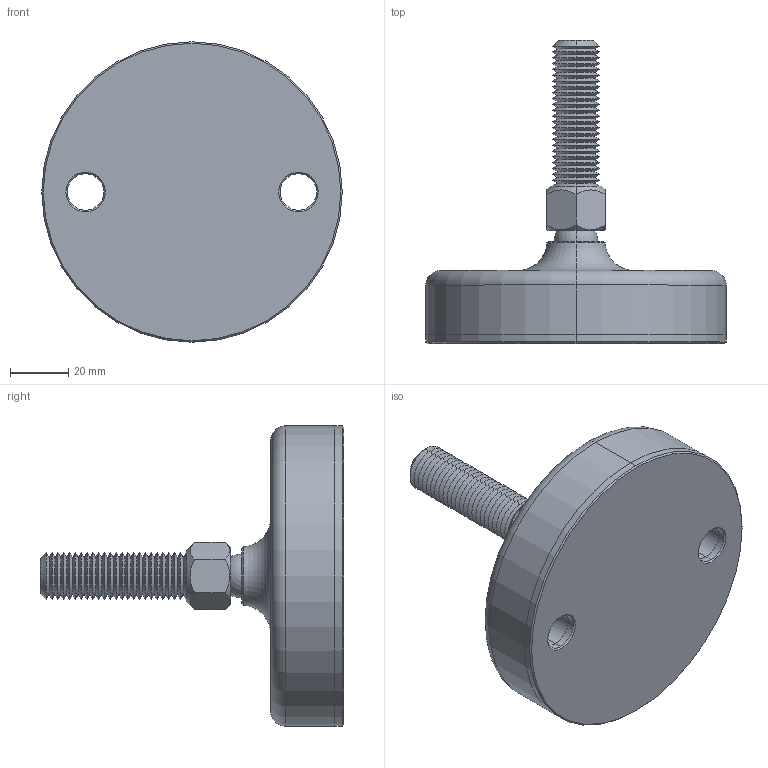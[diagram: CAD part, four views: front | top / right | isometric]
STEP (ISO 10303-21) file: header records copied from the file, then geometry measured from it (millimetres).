
FILE_DESCRIPTION (( 'STEP AP203' ), '1' );
FILE_NAME ('34724.W1607.step', '2019-11-28T22:13:12', ( '' ), ( '' ), 'SwSTEP 2.0', 'SolidWorks 2017', '' );
FILE_SCHEMA (( 'CONFIG_CONTROL_DESIGN' ));
Length unit declared in the file: millimetre
Products named in the file (4): Part2_34724.W1607; Part1_34724.W1607; 34724.W1607; Part3_34724.W1607
Assembly tree (3 placements, depth 2):
  34724.W1607
    Part1_34724.W1607
    Part2_34724.W1607
    Part3_34724.W1607
Bounding box: 103 x 104 x 103 mm (x, y, z)
Volume: 218970 mm3; surface area: 48484.2 mm2
Topology: 3 solids, 3 shells, 148 faces, 311 edges, 169 vertices
Faces by surface type: cone 114, plane 14, cylinder 12, sphere 4, torus 4
Entity records: 4366 total; most frequent: CARTESIAN_POINT 772, DIRECTION 756, ORIENTED_EDGE 604, AXIS2_PLACEMENT_3D 312, EDGE_CURVE 302, VERTEX_POINT 164, EDGE_LOOP 160, CIRCLE 158
